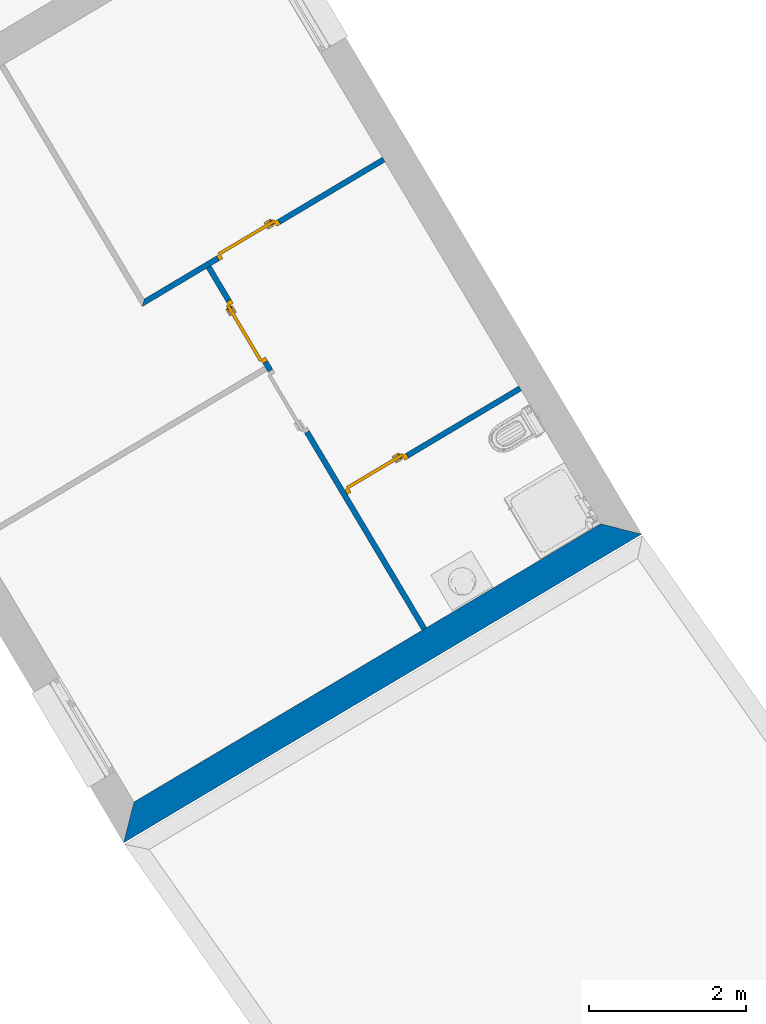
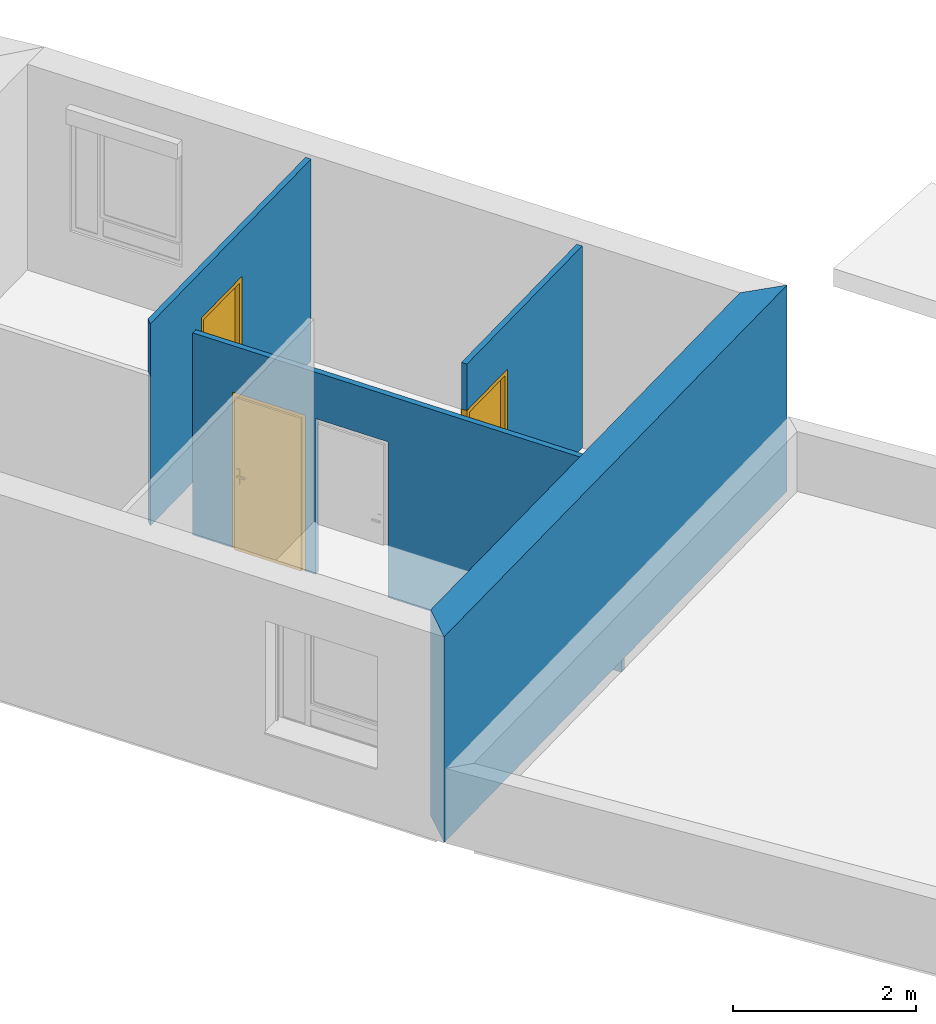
# One storey, part 45 of 121: 4 walls, 3 doors, 4 openings.
"""IFC2X3 building model written with IfcOpenShell, lengths in metres."""

from ifc_helpers import new_model, entity, si_unit, converted_unit, derived_unit, money_unit, direction, frame, origin_with_axes, origin_2d_with_axis, place, context, subcontext, project, spatial, polyline, rectangle, outline, extrude, faceted_brep, source, transform, mapped, material, layer, layer_set, layer_usage, type_object, element, fill, save


model = new_model("IFC2X3")

# Units and contexts
model_context = context("Model", 3, precision=1e-05, world=origin_with_axes(), true_north=direction((0.0, 1.0)))
body_context = subcontext(model_context, "Body", "Model", "MODEL_VIEW")
ifc_project = project(units=[si_unit("LENGTHUNIT", "METRE"), si_unit("AREAUNIT", "SQUARE_METRE"), si_unit("VOLUMEUNIT", "CUBIC_METRE"), converted_unit("PLANEANGLEUNIT", "DEGREE", entity("IfcPlaneAngleMeasure", 0.0174532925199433), si_unit("PLANEANGLEUNIT", "RADIAN"), dimensions=[0, 0, 0, 0, 0, 0, 0]), money_unit("CHF"), converted_unit("TIMEUNIT", "Year", entity("IfcTimeMeasure", 31557600.0), si_unit("TIMEUNIT", "SECOND"), dimensions=[0, 0, 1, 0, 0, 0, 0]), si_unit("MASSUNIT", "GRAM", prefix="KILO"), si_unit("THERMODYNAMICTEMPERATUREUNIT", "DEGREE_CELSIUS"), si_unit("LUMINOUSINTENSITYUNIT", "LUMEN"), si_unit("ENERGYUNIT", "JOULE", prefix="MEGA"), derived_unit("THERMALCONDUCTANCEUNIT", [(si_unit("POWERUNIT", "WATT"), 1), (si_unit("LENGTHUNIT", "METRE"), -1), (si_unit("THERMODYNAMICTEMPERATUREUNIT", "KELVIN"), -1)]), derived_unit("SPECIFICHEATCAPACITYUNIT", [(si_unit("ENERGYUNIT", "JOULE"), 1), (si_unit("MASSUNIT", "GRAM", prefix="KILO"), -1), (si_unit("THERMODYNAMICTEMPERATUREUNIT", "KELVIN"), -1)]), derived_unit("MASSDENSITYUNIT", [(si_unit("MASSUNIT", "GRAM", prefix="KILO"), 1), (si_unit("VOLUMEUNIT", "CUBIC_METRE"), -1)])], contexts=[model_context])

# Site, building, storey
site_placement = place(None, origin_with_axes())
site = spatial("IfcSite", under=ifc_project, at=site_placement, Name="Site", CompositionType="ELEMENT")
building_placement = place(site_placement, origin_with_axes())
building = spatial("IfcBuilding", under=site, at=building_placement, Name="Bâtiment", CompositionType="ELEMENT")
storey_placement = place(building_placement, frame((0.0, 0.0, 2.75), z_axis=(0.0, 0.0, 1.0), x_axis=(1.0, 0.0, 0.0)))
storey = spatial("IfcBuildingStorey", under=building, at=storey_placement, Name="Etage 1", CompositionType="ELEMENT", Elevation=2.75)

# Wall, opening, door
ifc_material_1 = material(Name="Hachure solide 268963992")
ifc_layer_1 = layer(ifc_material_1, 0.07, ventilated="UNKNOWN")
ifc_layer_set_1 = layer_set([ifc_layer_1], Name="Cloison 70 0826278243")
ifc_layer_usage_1 = layer_usage(ifc_layer_set_1, "AXIS2", "NEGATIVE", 0.0)
wall_type_1 = type_object("IfcWallType", Name="Cloison 70 0826278243 70", PredefinedType="NOTDEFINED")
wall_1_placement = place(storey_placement, frame((9546.030918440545, -1050.703531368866, 57.7), z_axis=(0.0, 0.0, 1.0), x_axis=(0.8590868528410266, 0.5118298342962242, 0.0)))
wall_1 = element("IfcWallStandardCase", 1, at=wall_1_placement, inside=storey, type_object=wall_type_1, material=ifc_layer_usage_1, Name="Mur-150", context=body_context, shape_type="SweptSolid", body=[
    extrude(outline(polyline([(1.952003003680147e-10, -0.07000000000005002), (2.585612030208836, -0.07000000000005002), (2.585612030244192, 0.0), (1.857642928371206e-10, 0.0), (1.952003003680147e-10, -0.07000000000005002)])), origin_with_axes(), (0.0, 0.0, 1.0), 2.7),
])
opening_1_placement = place(wall_1_placement, frame((0.4550000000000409, 0.0, 0.0), z_axis=(0.0, 0.0, 1.0), x_axis=(1.0, 0.0, 0.0)))
opening_1 = element("IfcOpeningElement", 2, at=opening_1_placement, cuts=wall_1, Name="Por-304", context=body_context, shape_type="SweptSolid", body=[
    extrude(rectangle(XDim=0.9099999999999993, YDim=2.079999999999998, at=origin_2d_with_axis()), frame((0.0, -0.06999999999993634, 1.039999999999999), z_axis=(0.0, -1.0, 0.0), x_axis=(-1.0, 0.0, 0.0)), (0.0, 0.0, -1.0), 0.14),
])
door_style = type_object("IfcDoorStyle", Name="Porte_1v", ConstructionType="NOTDEFINED", OperationType="NOTDEFINED", ParameterTakesPrecedence=False, Sizeable=False)
shared_shape_1 = source(origin_with_axes(), body_context, "Body", "Brep", [
    faceted_brep([(-0.455, 0.0, 0.0), (-0.455, 0.0, 2.08), (0.455, 0.0, 2.08), (0.455, 0.0, 0.0), (0.415, 0.0, 0.0), (0.415, 0.0, 2.04), (-0.415, 0.0, 2.04), (-0.415, 0.0, 0.0), (-0.455, -0.07, 0.0), (-0.455, -0.07, 2.08), (0.455, -0.07, 2.08), (0.455, -0.07, 0.0), (0.4, -0.07, 0.0), (0.4, -0.015, 0.0), (0.415, -0.015, 0.0), (0.415, -0.015, 2.04), (-0.415, -0.015, 2.04), (-0.415, -0.015, 0.0), (-0.4, -0.015, 0.0), (-0.4, -0.07, 0.0), (-0.4, -0.07, 2.025), (0.4, -0.07, 2.025), (0.4, -0.015, 2.025), (-0.4, -0.015, 2.025)], [[[0, 1, 2, 3, 4, 5, 6, 7]], [[8, 9, 1, 0]], [[9, 10, 2, 1]], [[10, 11, 3, 2]], [[3, 11, 12, 13, 14, 4]], [[5, 4, 14, 15]], [[6, 5, 15, 16]], [[7, 6, 16, 17]], [[0, 7, 17, 18, 19, 8]], [[19, 20, 21, 12, 11, 10, 9, 8]], [[22, 13, 12, 21]], [[17, 16, 15, 14, 13, 22, 23, 18]], [[18, 23, 20, 19]], [[23, 22, 21, 20]]]),
    faceted_brep([(0.35, -0.015, 0.9), (0.35, -0.015, 1.1), (0.39, -0.015, 1.1), (0.39, -0.015, 0.9), (0.35, -0.025, 0.9), (0.35, -0.025, 1.1), (0.39, -0.025, 1.1), (0.39, -0.025, 0.9)], [[[0, 1, 2, 3]], [[0, 4, 5, 1]], [[1, 5, 6, 2]], [[2, 6, 7, 3]], [[3, 7, 4, 0]], [[7, 6, 5, 4]]]),
    faceted_brep([(0.28, -0.025, 1.0), (0.28, -0.025, 1.02), (0.38, -0.025, 1.02), (0.38, -0.025, 1.0), (0.28, -0.045, 1.0), (0.28, -0.045, 1.02), (0.38, -0.045, 1.02), (0.38, -0.045, 1.0)], [[[0, 1, 2, 3]], [[0, 4, 5, 1]], [[1, 5, 6, 2]], [[2, 6, 7, 3]], [[3, 7, 4, 0]], [[7, 6, 5, 4]]]),
    faceted_brep([(0.35, 0.035, 0.9), (0.35, 0.035, 1.1), (0.39, 0.035, 1.1), (0.39, 0.035, 0.9), (0.35, 0.025, 0.9), (0.35, 0.025, 1.1), (0.39, 0.025, 1.1), (0.39, 0.025, 0.9)], [[[0, 1, 2, 3]], [[0, 4, 5, 1]], [[1, 5, 6, 2]], [[2, 6, 7, 3]], [[3, 7, 4, 0]], [[7, 6, 5, 4]]]),
    faceted_brep([(0.28, 0.05500000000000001, 1.0), (0.28, 0.05500000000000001, 1.02), (0.38, 0.05500000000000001, 1.02), (0.38, 0.05500000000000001, 1.0), (0.28, 0.035, 1.0), (0.28, 0.035, 1.02), (0.38, 0.035, 1.02), (0.38, 0.035, 1.0)], [[[0, 1, 2, 3]], [[0, 4, 5, 1]], [[1, 5, 6, 2]], [[2, 6, 7, 3]], [[3, 7, 4, 0]], [[7, 6, 5, 4]]]),
    faceted_brep([(0.415, 0.025, 0.0), (0.415, -0.015, 0.0), (-0.415, -0.015, 0.0), (-0.415, 0.025, 0.0), (0.415, 0.025, 2.04), (0.415, -0.015, 2.04), (-0.415, -0.015, 2.04), (-0.415, 0.025, 2.04)], [[[0, 1, 2, 3]], [[4, 5, 1, 0]], [[1, 5, 6, 2]], [[3, 2, 6, 7]], [[0, 3, 7, 4]], [[7, 6, 5, 4]]]),
])
door_1_placement = place(opening_1_placement, frame((-0.4150000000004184, 0.0, 0.0), z_axis=(0.0, 0.0, 1.0), x_axis=(1.0, 0.0, 0.0)))
door_1 = element("IfcDoor", 3, at=door_1_placement, inside=storey, type_object=door_style, Name="Por-304", OverallHeight=2.04, OverallWidth=0.83, context=body_context, shape_type="MappedRepresentation", body=[
    mapped(shared_shape_1, transform((0.4149999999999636, 0.0, 0.0))),
])
fill(opening_1, door_1)

# Wall, openings, door
ifc_layer_usage_2 = layer_usage(ifc_layer_set_1, "AXIS2", "NEGATIVE", 0.0)
wall_2_placement = place(storey_placement, frame((9544.327423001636, -1047.844279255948, 57.0), z_axis=(0.0, 0.0, 1.0), x_axis=(0.5118298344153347, -0.8590868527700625, 0.0)))
wall_2 = element("IfcWallStandardCase", 4, at=wall_2_placement, inside=storey, type_object=wall_type_1, material=ifc_layer_usage_2, Name="Mur-150", context=body_context, shape_type="SweptSolid", body=[
    extrude(outline(polyline([(-4.143885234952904e-10, -0.06999999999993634), (5.373879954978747, -0.06999999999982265), (5.373879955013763, 0.0), (-4.125695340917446e-10, 0.0), (-4.143885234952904e-10, -0.06999999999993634)])), origin_with_axes(), (0.0, 0.0, 1.0), 2.7),
])
opening_2_placement = place(wall_2_placement, frame((1.993332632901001, 0.0, 0.0), z_axis=(0.0, 0.0, 1.0), x_axis=(1.0, 0.0, 0.0)))
element("IfcOpeningElement", 5, at=opening_2_placement, cuts=wall_2, Name="Por-289", context=body_context, shape_type="SweptSolid", body=[
    extrude(rectangle(XDim=0.9099999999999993, YDim=2.079999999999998, at=origin_2d_with_axis()), frame((0.0, 0.07000000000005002, 1.039999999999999), z_axis=(0.0, -1.0, 0.0), x_axis=(-1.0, 0.0, 0.0)), (0.0, 0.0, 1.0), 0.14),
])
opening_3_placement = place(wall_2_placement, frame((0.9558806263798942, 0.0, 0.0), z_axis=(0.0, 0.0, 1.0), x_axis=(1.0, 0.0, 0.0)))
opening_3 = element("IfcOpeningElement", 6, at=opening_3_placement, cuts=wall_2, Name="Por-290", context=body_context, shape_type="SweptSolid", body=[
    extrude(rectangle(XDim=0.9099999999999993, YDim=2.079999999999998, at=origin_2d_with_axis()), frame((0.0, 0.06999999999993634, 1.039999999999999), z_axis=(0.0, 1.0, 0.0), x_axis=(1.0, 0.0, 0.0)), (0.0, 0.0, -1.0), 0.14),
])
shared_shape_2 = source(origin_with_axes(), body_context, "Body", "Brep", [
    faceted_brep([(-0.455, 0.0, 0.0), (-0.455, 0.0, 2.08), (0.455, 0.0, 2.08), (0.455, 0.0, 0.0), (0.415, 0.0, 0.0), (0.4149999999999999, 0.0, 2.04), (-0.4149999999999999, 0.0, 2.04), (-0.415, 0.0, 0.0), (-0.455, -0.07, 0.0), (-0.455, -0.07, 2.08), (0.455, -0.07, 2.08), (0.455, -0.07, 0.0), (0.4, -0.07, 0.0), (0.4, -0.015, 0.0), (0.415, -0.015, 0.0), (0.4149999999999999, -0.015, 2.04), (-0.4149999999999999, -0.015, 2.04), (-0.415, -0.015, 0.0), (-0.4, -0.015, 0.0), (-0.4, -0.07, 0.0), (-0.4, -0.07, 2.025), (0.4, -0.07, 2.025), (0.4, -0.015, 2.025), (-0.4, -0.015, 2.025)], [[[0, 1, 2, 3, 4, 5, 6, 7]], [[8, 9, 1, 0]], [[9, 10, 2, 1]], [[10, 11, 3, 2]], [[3, 11, 12, 13, 14, 4]], [[5, 4, 14, 15]], [[6, 5, 15, 16]], [[7, 6, 16, 17]], [[0, 7, 17, 18, 19, 8]], [[19, 20, 21, 12, 11, 10, 9, 8]], [[22, 13, 12, 21]], [[17, 16, 15, 14, 13, 22, 23, 18]], [[18, 23, 20, 19]], [[23, 22, 21, 20]]]),
    faceted_brep([(0.35, -0.015, 0.9), (0.35, -0.015, 1.1), (0.39, -0.015, 1.1), (0.39, -0.015, 0.9), (0.35, -0.025, 0.9), (0.35, -0.025, 1.1), (0.39, -0.025, 1.1), (0.39, -0.025, 0.9)], [[[0, 1, 2, 3]], [[0, 4, 5, 1]], [[1, 5, 6, 2]], [[2, 6, 7, 3]], [[3, 7, 4, 0]], [[7, 6, 5, 4]]]),
    faceted_brep([(0.2799999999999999, -0.025, 1.0), (0.2799999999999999, -0.025, 1.02), (0.3799999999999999, -0.025, 1.02), (0.3799999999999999, -0.025, 1.0), (0.2799999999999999, -0.045, 1.0), (0.2799999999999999, -0.045, 1.02), (0.3799999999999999, -0.045, 1.02), (0.3799999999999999, -0.045, 1.0)], [[[0, 1, 2, 3]], [[0, 4, 5, 1]], [[1, 5, 6, 2]], [[2, 6, 7, 3]], [[3, 7, 4, 0]], [[7, 6, 5, 4]]]),
    faceted_brep([(0.35, 0.035, 0.9), (0.35, 0.035, 1.1), (0.39, 0.035, 1.1), (0.39, 0.035, 0.9), (0.35, 0.025, 0.9), (0.35, 0.025, 1.1), (0.39, 0.025, 1.1), (0.39, 0.025, 0.9)], [[[0, 1, 2, 3]], [[0, 4, 5, 1]], [[1, 5, 6, 2]], [[2, 6, 7, 3]], [[3, 7, 4, 0]], [[7, 6, 5, 4]]]),
    faceted_brep([(0.2799999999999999, 0.05500000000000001, 1.0), (0.2799999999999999, 0.05500000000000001, 1.02), (0.3799999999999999, 0.05500000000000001, 1.02), (0.3799999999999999, 0.05500000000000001, 1.0), (0.2799999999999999, 0.035, 1.0), (0.2799999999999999, 0.035, 1.02), (0.3799999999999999, 0.035, 1.02), (0.3799999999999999, 0.035, 1.0)], [[[0, 1, 2, 3]], [[0, 4, 5, 1]], [[1, 5, 6, 2]], [[2, 6, 7, 3]], [[3, 7, 4, 0]], [[7, 6, 5, 4]]]),
    faceted_brep([(0.415, 0.025, 0.0), (0.415, -0.015, 0.0), (-0.415, -0.015, 0.0), (-0.415, 0.025, 0.0), (0.415, 0.025, 2.04), (0.415, -0.015, 2.04), (-0.415, -0.015, 2.04), (-0.415, 0.025, 2.04)], [[[0, 1, 2, 3]], [[4, 5, 1, 0]], [[1, 5, 6, 2]], [[3, 2, 6, 7]], [[0, 3, 7, 4]], [[7, 6, 5, 4]]]),
])
door_2_placement = place(opening_3_placement, frame((0.415000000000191, 0.0, 0.0), z_axis=(0.0, 0.0, 1.0), x_axis=(-1.0, 0.0, 0.0)))
door_2 = element("IfcDoor", 7, at=door_2_placement, inside=storey, type_object=door_style, Name="Por-290", OverallHeight=2.04, OverallWidth=0.83, context=body_context, shape_type="MappedRepresentation", body=[
    mapped(shared_shape_2, transform((0.4149999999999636, 0.06999999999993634, 0.0))),
])
fill(opening_3, door_2)

# Wall, opening, door
ifc_layer_usage_3 = layer_usage(ifc_layer_set_1, "AXIS2", "NEGATIVE", 0.0)
wall_3_placement = place(storey_placement, frame((9546.875141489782, -1046.326390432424, 57.7), z_axis=(0.0, 0.0, 1.0), x_axis=(-0.8590868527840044, -0.5118298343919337, 0.0)))
wall_3 = element("IfcWallStandardCase", 8, at=wall_3_placement, inside=storey, type_object=wall_type_1, material=ifc_layer_usage_3, Name="Mur-149", context=body_context, shape_type="SweptSolid", body=[
    extrude(outline(polyline([(0.3800002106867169, -0.07000000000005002), (3.915891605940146, -0.07000000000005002), (3.985891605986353, 0.0), (0.3800002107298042, 0.0), (0.3800002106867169, -0.07000000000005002)])), origin_with_axes(), (0.0, 0.0, 1.0), 2.7),
])
opening_4_placement = place(wall_3_placement, frame((2.388337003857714, 0.0, 0.0), z_axis=(0.0, 0.0, 1.0), x_axis=(1.0, 0.0, 0.0)))
opening_4 = element("IfcOpeningElement", 9, at=opening_4_placement, cuts=wall_3, Name="Por-291", context=body_context, shape_type="SweptSolid", body=[
    extrude(rectangle(XDim=0.9099999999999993, YDim=2.079999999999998, at=origin_2d_with_axis()), frame((0.0, 0.07000000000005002, 1.039999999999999), z_axis=(0.0, 1.0, 0.0), x_axis=(1.0, 0.0, 0.0)), (0.0, 0.0, -1.0), 0.14),
])
door_3_placement = place(opening_4_placement, frame((0.4150000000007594, 0.0, 0.0), z_axis=(0.0, 0.0, 1.0), x_axis=(-1.0, 0.0, 0.0)))
door_3 = element("IfcDoor", 10, at=door_3_placement, inside=storey, type_object=door_style, Name="Por-291", OverallHeight=2.04, OverallWidth=0.83, context=body_context, shape_type="MappedRepresentation", body=[
    mapped(shared_shape_1, transform((0.4149999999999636, 0.06999999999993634, 0.0))),
])
fill(opening_4, door_3)

# Wall
ifc_material_2 = material(Name="Parpaing 312445824")
ifc_layer_2 = layer(ifc_material_2, 0.22, ventilated="UNKNOWN")
ifc_material_3 = material(Name="Isolant styromousse 301821074")
ifc_layer_3 = layer(ifc_material_3, 0.16, ventilated="UNKNOWN")
ifc_layer_set_2 = layer_set([ifc_layer_2, ifc_layer_3], Name="isol int 22+16 0836643197")
ifc_layer_usage_4 = layer_usage(ifc_layer_set_2, "AXIS2", "NEGATIVE", 0.0)
wall_type_2 = type_object("IfcWallType", Name="isol int 22+16 0836643197 380", PredefinedType="NOTDEFINED")
wall_4_placement = place(storey_placement, frame((9549.820148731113, -1051.269473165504, 57.7), z_axis=(0.0, 0.0, 1.0), x_axis=(-0.8590868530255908, -0.5118298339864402, 0.0)))
element("IfcWallStandardCase", 11, at=wall_4_placement, inside=storey, type_object=wall_type_2, material=ifc_layer_usage_4, Name="Mur-113", context=body_context, shape_type="SweptSolid", body=[
    extrude(outline(polyline([(0.3799999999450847, -0.3799999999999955), (7.311113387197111, -0.3799999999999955), (7.691113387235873, 0.0), (0.0, 0.0), (0.3799999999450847, -0.3799999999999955)])), origin_with_axes(), (0.0, 0.0, 1.0), 2.75),
])

save(model, "model.ifc")
